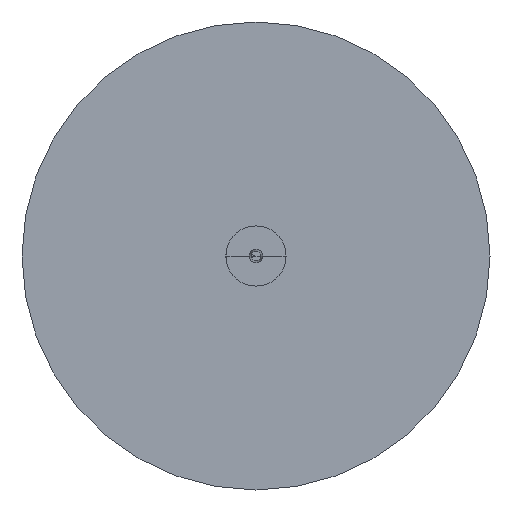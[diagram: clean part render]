
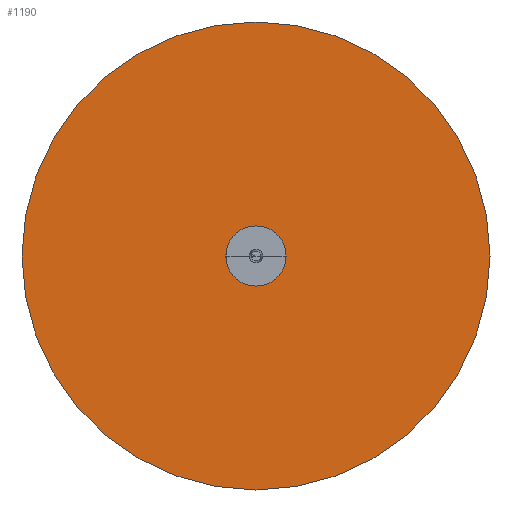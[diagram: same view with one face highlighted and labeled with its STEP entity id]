
A CAD part, front view. The second image highlights one B-rep face of the part: STEP entity #1190.
In plain terms, the highlighted planar face has unit normal (0, -1, 0).
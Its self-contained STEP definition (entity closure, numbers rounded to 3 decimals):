
#830=CARTESIAN_POINT('',(70.,-39.498,0.0));
#831=VERTEX_POINT('',#830);
#847=CARTESIAN_POINT('',(-70.,-39.498,0.));
#848=VERTEX_POINT('',#847);
#855=CARTESIAN_POINT('',(0.0,-39.498,0.0));
#856=DIRECTION('',(0.0,-1.0,0.0));
#857=DIRECTION('',(1.0,0.0,0.0));
#858=AXIS2_PLACEMENT_3D('',#855,#856,#857);
#859=CIRCLE('',#858,70.);
#860=EDGE_CURVE('',#831,#848,#859,.T.);
#964=CARTESIAN_POINT('',(9.,-39.498,0.0));
#965=VERTEX_POINT('',#964);
#990=CARTESIAN_POINT('',(-9.,-39.498,0.));
#991=VERTEX_POINT('',#990);
#998=CARTESIAN_POINT('',(0.0,-39.498,0.0));
#999=DIRECTION('',(0.0,-1.0,0.0));
#1000=DIRECTION('',(1.0,0.0,0.0));
#1001=AXIS2_PLACEMENT_3D('',#998,#999,#1000);
#1002=CIRCLE('',#1001,9.);
#1003=EDGE_CURVE('',#991,#965,#1002,.T.);
#1082=CARTESIAN_POINT('',(0.0,-39.498,0.0));
#1083=DIRECTION('',(0.0,-1.0,0.0));
#1084=DIRECTION('',(1.0,0.0,0.0));
#1085=AXIS2_PLACEMENT_3D('',#1082,#1083,#1084);
#1086=CIRCLE('',#1085,9.);
#1087=EDGE_CURVE('',#965,#991,#1086,.T.);
#1165=CARTESIAN_POINT('',(0.0,-39.498,0.0));
#1166=DIRECTION('',(0.0,-1.0,0.0));
#1167=DIRECTION('',(1.0,0.0,0.0));
#1168=AXIS2_PLACEMENT_3D('',#1165,#1166,#1167);
#1169=CIRCLE('',#1168,70.);
#1170=EDGE_CURVE('',#848,#831,#1169,.T.);
#1177=CARTESIAN_POINT('',(39.5,-39.498,0.0));
#1178=DIRECTION('',(0.0,-1.0,0.0));
#1179=DIRECTION('',(0.0,0.0,-1.0));
#1180=AXIS2_PLACEMENT_3D('',#1177,#1178,#1179);
#1181=PLANE('',#1180);
#1182=ORIENTED_EDGE('',*,*,#860,.T.);
#1183=ORIENTED_EDGE('',*,*,#1170,.T.);
#1184=EDGE_LOOP('',(#1182,#1183));
#1185=FACE_OUTER_BOUND('',#1184,.T.);
#1186=ORIENTED_EDGE('',*,*,#1087,.F.);
#1187=ORIENTED_EDGE('',*,*,#1003,.F.);
#1188=EDGE_LOOP('',(#1186,#1187));
#1189=FACE_BOUND('',#1188,.T.);
#1190=ADVANCED_FACE('',(#1185,#1189),#1181,.T.);
